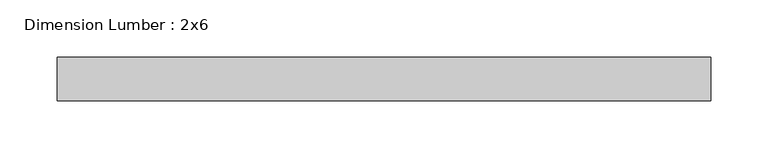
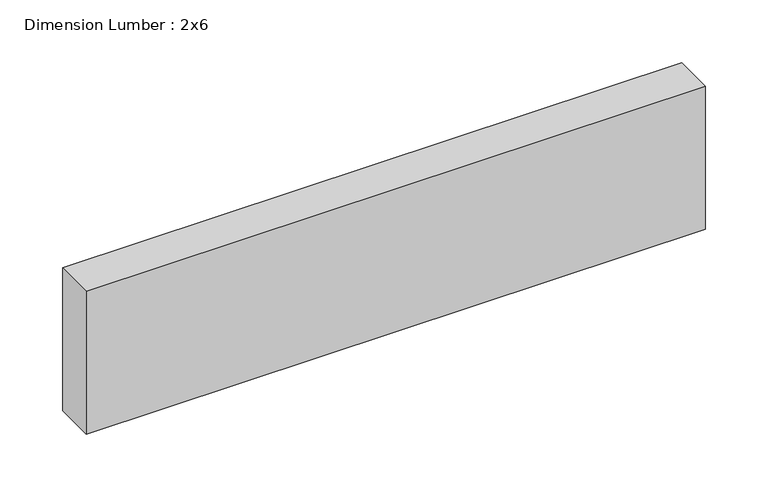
"""IFC4 building model written with IfcOpenShell, lengths in millimetres: beam geometry, Dimension Lumber : 2x6."""

from ifc_helpers import new_model, si_unit, frame, origin, place, context, project, spatial, polyline, outline, extrude, source, transform, mapped, element, save


def dimension_lumber_2x6_691fcd61(model_context):
    return source(origin(), model_context, "Body", "SweptSolid", [
        extrude(outline(polyline([(285.75, 19.05), (285.75, -19.05), (-285.75, -19.05), (-285.75, 19.05), (285.75, 19.05)])), frame((0.0, 0.0, -69.85), z_axis=(0.0, 0.0, 1.0), x_axis=(1.0, 0.0, 0.0)), (0.0, 0.0, 1.0), 139.7),
    ])


if __name__ == "__main__":
    model = new_model("IFC4")
    model_context = context("Model", 3, world=origin())
    ifc_project = project(units=[si_unit("LENGTHUNIT", "METRE", prefix="MILLI")], contexts=[model_context])
    site = spatial("IfcSite", under=ifc_project)
    building = spatial("IfcBuilding", under=site)
    placement = place(None, origin())
    dimension_lumber_2x6_shape = dimension_lumber_2x6_691fcd61(model_context)
    element("IfcBeam", 1, ObjectType="Dimension Lumber : 2x6", at=placement, inside=building, context=model_context, shape_type="MappedRepresentation", body=[
        mapped(dimension_lumber_2x6_shape, transform((0.0, 0.0, 0.0), x_axis=(1.0, 0.0, 0.0), y_axis=(0.0, 1.0, 0.0), z_axis=(0.0, 0.0, 1.0))),
    ])
    save(model, "model.ifc")
